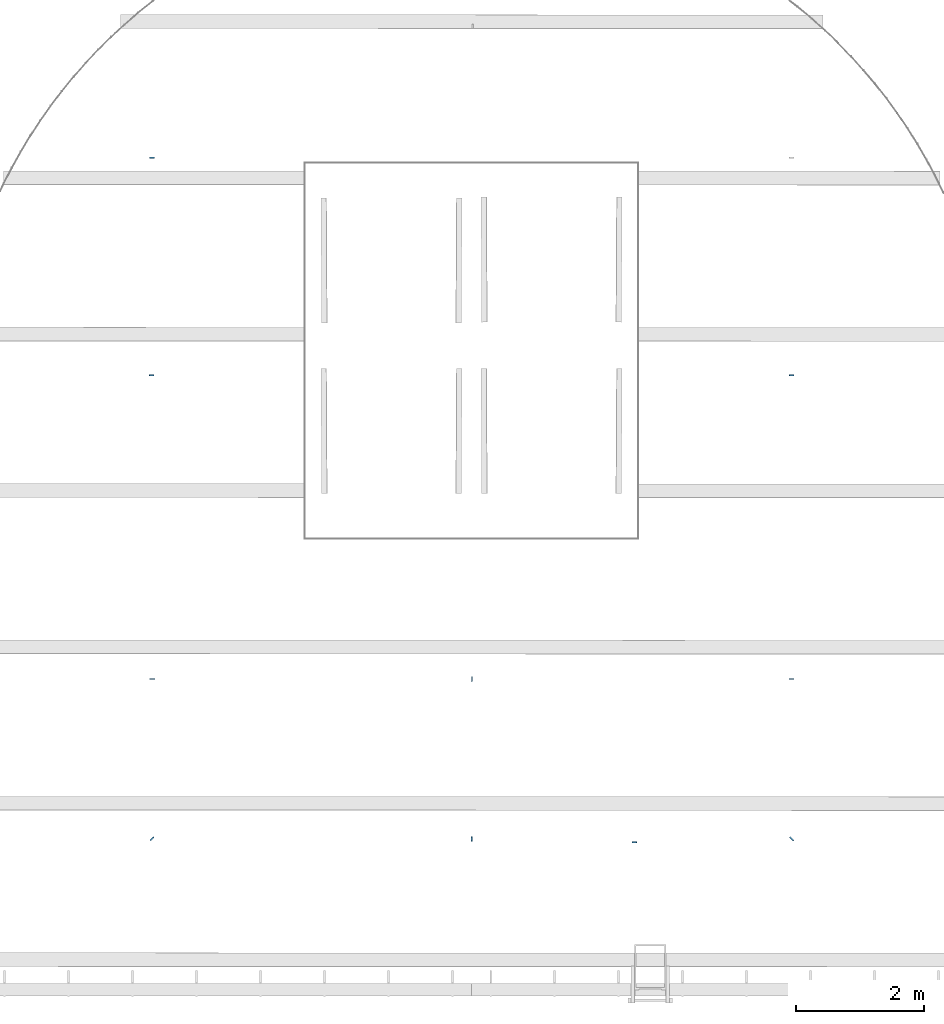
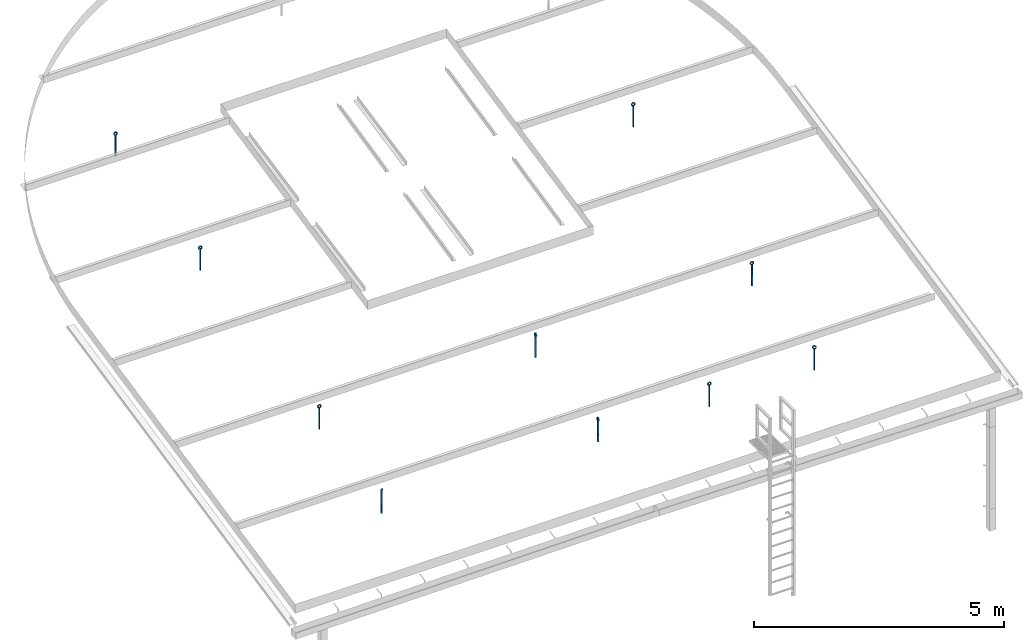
# One storey, part 2 of 7: 10 beams.
"""IFC4 building model written with IfcOpenShell, lengths in millimetres."""

from ifc_helpers import new_model, entity, si_unit, converted_unit, derived_unit, direction, frame, origin_with_axes, place, context, subcontext, project, spatial, line, arc, indexed_curve, outline, composite_profile, extrude, material, material_profile, profile_set, type_object, element, save


model = new_model("IFC4")

# Units and contexts
model_context = context("Model", 3, precision=0.01, world=origin_with_axes(), true_north=direction((0.0, 1.0)))
body_context = subcontext(model_context, "Body", "Model", "MODEL_VIEW")
ifc_project = project(units=[si_unit("LENGTHUNIT", "METRE", prefix="MILLI"), si_unit("AREAUNIT", "SQUARE_METRE"), si_unit("VOLUMEUNIT", "CUBIC_METRE"), converted_unit("PLANEANGLEUNIT", "DEGREE", entity("IfcPlaneAngleMeasure", 0.0174532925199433), si_unit("PLANEANGLEUNIT", "RADIAN"), dimensions=[0, 0, 0, 0, 0, 0, 0]), converted_unit("TIMEUNIT", "Year", entity("IfcTimeMeasure", 31557600.0), si_unit("TIMEUNIT", "SECOND"), dimensions=[0, 0, 1, 0, 0, 0, 0]), si_unit("MASSUNIT", "GRAM", prefix="KILO"), si_unit("THERMODYNAMICTEMPERATUREUNIT", "DEGREE_CELSIUS"), si_unit("LUMINOUSINTENSITYUNIT", "LUMEN"), si_unit("ENERGYUNIT", "JOULE", prefix="MEGA"), derived_unit("THERMALCONDUCTANCEUNIT", [(si_unit("POWERUNIT", "WATT"), 1), (si_unit("LENGTHUNIT", "METRE"), -1), (si_unit("THERMODYNAMICTEMPERATUREUNIT", "KELVIN"), -1)]), derived_unit("SPECIFICHEATCAPACITYUNIT", [(si_unit("ENERGYUNIT", "JOULE"), 1), (si_unit("MASSUNIT", "GRAM", prefix="KILO"), -1), (si_unit("THERMODYNAMICTEMPERATUREUNIT", "KELVIN"), -1)]), derived_unit("MASSDENSITYUNIT", [(si_unit("MASSUNIT", "GRAM", prefix="KILO"), 1), (si_unit("VOLUMEUNIT", "CUBIC_METRE"), -1)])], contexts=[model_context])

# Site, building, storey
site_placement = place(None, origin_with_axes())
site = spatial("IfcSite", under=ifc_project, at=site_placement, Name="Exteriér", CompositionType="ELEMENT")
building_placement = place(site_placement, origin_with_axes())
building = spatial("IfcBuilding", under=site, at=building_placement, Name="Univerzitní lezecké centrum", CompositionType="ELEMENT")
storey_placement = place(building_placement, frame((0.0, 0.0, 12800.0), z_axis=(0.0, 0.0, 1.0), x_axis=(1.0, 0.0, 0.0)))
storey = spatial("IfcBuildingStorey", under=building, at=storey_placement, Name="Střecha", CompositionType="ELEMENT", Elevation=12800.0)

# Beams
ifc_material = material(Name="Ocel - nerez")
ifc_material_profile_1 = material_profile(ifc_material, outline(indexed_curve([(-10.0, 0.0), (9.999999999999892, 0.0), (9.999999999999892, 511.2701665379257), (5.04017169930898, 510.3188121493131), (0.0, 509.9999999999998), (-5.040171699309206, 510.3188121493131), (-10.0, 511.2701665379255)], segments=[line(1, 2, 3), arc(3, 4, 5), arc(5, 6, 7), line(7, 1)])), Name="Ocel - nerez 1")
ifc_material_profile_2 = material_profile(ifc_material, outline(indexed_curve([(0.0, 589.9999999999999), (-28.28427124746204, 578.2842712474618), (-40.00000000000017, 549.9999999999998), (-31.6227766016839, 525.505102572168), (-10.0, 511.2701665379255), (-5.040171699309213, 510.3188121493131), (0.0, 509.9999999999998), (5.040171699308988, 510.3188121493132), (9.999999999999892, 511.2701665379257), (31.62277660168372, 525.5051025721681), (39.99999999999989, 549.9999999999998), (28.28427124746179, 578.2842712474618), (-30.0000000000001, 549.9999999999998), (-21.21320343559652, 571.2132034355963), (0.0, 579.9999999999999), (21.21320343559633, 571.2132034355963), (29.99999999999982, 549.9999999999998), (21.21320343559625, 528.7867965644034), (0.0, 519.9999999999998), (-21.2132034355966, 528.7867965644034)], segments=[arc(1, 2, 3), arc(3, 4, 5), arc(5, 6, 7), arc(7, 8, 9), arc(9, 10, 11), arc(11, 12, 1)]), holes=[indexed_curve([(0.0, 589.9999999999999), (-28.28427124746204, 578.2842712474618), (-40.00000000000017, 549.9999999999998), (-31.6227766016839, 525.505102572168), (-10.0, 511.2701665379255), (-5.040171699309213, 510.3188121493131), (0.0, 509.9999999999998), (5.040171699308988, 510.3188121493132), (9.999999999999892, 511.2701665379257), (31.62277660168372, 525.5051025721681), (39.99999999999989, 549.9999999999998), (28.28427124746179, 578.2842712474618), (-30.0000000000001, 549.9999999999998), (-21.21320343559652, 571.2132034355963), (0.0, 579.9999999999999), (21.21320343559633, 571.2132034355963), (29.99999999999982, 549.9999999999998), (21.21320343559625, 528.7867965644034), (0.0, 519.9999999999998), (-21.2132034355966, 528.7867965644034)], segments=[arc(13, 14, 15), arc(15, 16, 17), arc(17, 18, 19), arc(19, 20, 13)])]), Name="Ocel - nerez 2")
ifc_profile_set = profile_set([ifc_material_profile_1, ifc_material_profile_2], Name="Kotvící bod záchytného systému", composite=composite_profile([outline(indexed_curve([(-10.0, 0.0), (9.999999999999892, 0.0), (9.999999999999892, 511.2701665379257), (5.04017169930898, 510.3188121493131), (0.0, 509.9999999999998), (-5.040171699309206, 510.3188121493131), (-10.0, 511.2701665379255)], segments=[line(1, 2, 3), arc(3, 4, 5), arc(5, 6, 7), line(7, 1)])), outline(indexed_curve([(0.0, 589.9999999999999), (-28.28427124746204, 578.2842712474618), (-40.00000000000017, 549.9999999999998), (-31.6227766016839, 525.505102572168), (-10.0, 511.2701665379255), (-5.040171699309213, 510.3188121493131), (0.0, 509.9999999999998), (5.040171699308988, 510.3188121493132), (9.999999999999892, 511.2701665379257), (31.62277660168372, 525.5051025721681), (39.99999999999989, 549.9999999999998), (28.28427124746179, 578.2842712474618), (-30.0000000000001, 549.9999999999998), (-21.21320343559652, 571.2132034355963), (0.0, 579.9999999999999), (21.21320343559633, 571.2132034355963), (29.99999999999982, 549.9999999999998), (21.21320343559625, 528.7867965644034), (0.0, 519.9999999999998), (-21.2132034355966, 528.7867965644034)], segments=[arc(1, 2, 3), arc(3, 4, 5), arc(5, 6, 7), arc(7, 8, 9), arc(9, 10, 11), arc(11, 12, 1)]), holes=[indexed_curve([(0.0, 589.9999999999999), (-28.28427124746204, 578.2842712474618), (-40.00000000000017, 549.9999999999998), (-31.6227766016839, 525.505102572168), (-10.0, 511.2701665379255), (-5.040171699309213, 510.3188121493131), (0.0, 509.9999999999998), (5.040171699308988, 510.3188121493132), (9.999999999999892, 511.2701665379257), (31.62277660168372, 525.5051025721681), (39.99999999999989, 549.9999999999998), (28.28427124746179, 578.2842712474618), (-30.0000000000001, 549.9999999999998), (-21.21320343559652, 571.2132034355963), (0.0, 579.9999999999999), (21.21320343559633, 571.2132034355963), (29.99999999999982, 549.9999999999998), (21.21320343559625, 528.7867965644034), (0.0, 519.9999999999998), (-21.2132034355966, 528.7867965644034)], segments=[arc(13, 14, 15), arc(15, 16, 17), arc(17, 18, 19), arc(19, 20, 13)])])]))
beam_type = type_object("IfcBeamType", Name="Kotvící bod záchytného systému 80 x 590", PredefinedType="BEAM")
beam_1_placement = place(storey_placement, frame((4996.382240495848, 1686.63340389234, 186.9999999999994), z_axis=(0.0, 0.0, 1.0), x_axis=(1.0, 0.0, 0.0)))
element("IfcBeam", 1, at=beam_1_placement, inside=storey, type_object=beam_type, material=ifc_profile_set, Name="OV27", PredefinedType="BEAM", context=body_context, shape_type="SweptSolid", body=[
    extrude(composite_profile([outline(indexed_curve([(-10.0, 0.0), (9.999999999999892, 0.0), (9.999999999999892, 511.2701665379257), (5.04017169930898, 510.3188121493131), (0.0, 509.9999999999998), (-5.040171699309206, 510.3188121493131), (-10.0, 511.2701665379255)], segments=[line(1, 2, 3), arc(3, 4, 5), arc(5, 6, 7), line(7, 1)])), outline(indexed_curve([(0.0, 589.9999999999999), (-28.28427124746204, 578.2842712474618), (-40.00000000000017, 549.9999999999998), (-31.6227766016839, 525.505102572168), (-10.0, 511.2701665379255), (-5.040171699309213, 510.3188121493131), (0.0, 509.9999999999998), (5.040171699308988, 510.3188121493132), (9.999999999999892, 511.2701665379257), (31.62277660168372, 525.5051025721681), (39.99999999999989, 549.9999999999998), (28.28427124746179, 578.2842712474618), (-30.0000000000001, 549.9999999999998), (-21.21320343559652, 571.2132034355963), (0.0, 579.9999999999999), (21.21320343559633, 571.2132034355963), (29.99999999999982, 549.9999999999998), (21.21320343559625, 528.7867965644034), (0.0, 519.9999999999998), (-21.2132034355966, 528.7867965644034)], segments=[arc(1, 2, 3), arc(3, 4, 5), arc(5, 6, 7), arc(7, 8, 9), arc(9, 10, 11), arc(11, 12, 1)]), holes=[indexed_curve([(0.0, 589.9999999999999), (-28.28427124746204, 578.2842712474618), (-40.00000000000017, 549.9999999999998), (-31.6227766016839, 525.505102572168), (-10.0, 511.2701665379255), (-5.040171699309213, 510.3188121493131), (0.0, 509.9999999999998), (5.040171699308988, 510.3188121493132), (9.999999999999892, 511.2701665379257), (31.62277660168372, 525.5051025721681), (39.99999999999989, 549.9999999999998), (28.28427124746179, 578.2842712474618), (-30.0000000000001, 549.9999999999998), (-21.21320343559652, 571.2132034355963), (0.0, 579.9999999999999), (21.21320343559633, 571.2132034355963), (29.99999999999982, 549.9999999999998), (21.21320343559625, 528.7867965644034), (0.0, 519.9999999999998), (-21.2132034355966, 528.7867965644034)], segments=[arc(13, 14, 15), arc(15, 16, 17), arc(17, 18, 19), arc(19, 20, 13)])])]), frame((0.0, 19.99999999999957, 0.0), z_axis=(0.0, -1.0, 0.0), x_axis=(1.0, 0.0, 0.0)), (0.0, 0.0, 1.0), 19.99999999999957),
])
beam_2_placement = place(storey_placement, frame((2463.187812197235, 1749.653821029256, 186.9999999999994), z_axis=(0.0, 0.0, 1.0), x_axis=(0.00128151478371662, 0.9999991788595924, 0.0)))
element("IfcBeam", 2, at=beam_2_placement, inside=storey, type_object=beam_type, material=ifc_profile_set, Name="OV27", PredefinedType="BEAM", context=body_context, shape_type="SweptSolid", body=[
    extrude(composite_profile([outline(indexed_curve([(-10.0, 0.0), (9.999999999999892, 0.0), (9.999999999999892, 511.2701665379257), (5.04017169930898, 510.3188121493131), (0.0, 509.9999999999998), (-5.040171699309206, 510.3188121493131), (-10.0, 511.2701665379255)], segments=[line(1, 2, 3), arc(3, 4, 5), arc(5, 6, 7), line(7, 1)])), outline(indexed_curve([(0.0, 589.9999999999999), (-28.28427124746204, 578.2842712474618), (-40.00000000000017, 549.9999999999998), (-31.6227766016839, 525.505102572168), (-10.0, 511.2701665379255), (-5.040171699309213, 510.3188121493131), (0.0, 509.9999999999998), (5.040171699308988, 510.3188121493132), (9.999999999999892, 511.2701665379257), (31.62277660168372, 525.5051025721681), (39.99999999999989, 549.9999999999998), (28.28427124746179, 578.2842712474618), (-30.0000000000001, 549.9999999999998), (-21.21320343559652, 571.2132034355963), (0.0, 579.9999999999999), (21.21320343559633, 571.2132034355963), (29.99999999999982, 549.9999999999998), (21.21320343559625, 528.7867965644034), (0.0, 519.9999999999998), (-21.2132034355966, 528.7867965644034)], segments=[arc(1, 2, 3), arc(3, 4, 5), arc(5, 6, 7), arc(7, 8, 9), arc(9, 10, 11), arc(11, 12, 1)]), holes=[indexed_curve([(0.0, 589.9999999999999), (-28.28427124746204, 578.2842712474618), (-40.00000000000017, 549.9999999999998), (-31.6227766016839, 525.505102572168), (-10.0, 511.2701665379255), (-5.040171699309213, 510.3188121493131), (0.0, 509.9999999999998), (5.040171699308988, 510.3188121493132), (9.999999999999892, 511.2701665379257), (31.62277660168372, 525.5051025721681), (39.99999999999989, 549.9999999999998), (28.28427124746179, 578.2842712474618), (-30.0000000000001, 549.9999999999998), (-21.21320343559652, 571.2132034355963), (0.0, 579.9999999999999), (21.21320343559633, 571.2132034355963), (29.99999999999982, 549.9999999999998), (21.21320343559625, 528.7867965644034), (0.0, 519.9999999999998), (-21.2132034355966, 528.7867965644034)], segments=[arc(13, 14, 15), arc(15, 16, 17), arc(17, 18, 19), arc(19, 20, 13)])])]), frame((0.0, 20.00000000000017, 0.0), z_axis=(0.0, -1.0, 0.0), x_axis=(1.0, 0.0, 0.0)), (0.0, 0.0, 1.0), 20.00000000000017),
])
beam_3_placement = place(storey_placement, frame((7462.646355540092, 1756.73770398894, 186.9999999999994), z_axis=(0.0, 0.0, 1.0), x_axis=(-0.7071067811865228, 0.7071067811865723, 0.0)))
element("IfcBeam", 3, at=beam_3_placement, inside=storey, type_object=beam_type, material=ifc_profile_set, Name="OV27", PredefinedType="BEAM", context=body_context, shape_type="SweptSolid", body=[
    extrude(composite_profile([outline(indexed_curve([(-10.0, 0.0), (9.999999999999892, 0.0), (9.999999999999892, 511.2701665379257), (5.04017169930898, 510.3188121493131), (0.0, 509.9999999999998), (-5.040171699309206, 510.3188121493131), (-10.0, 511.2701665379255)], segments=[line(1, 2, 3), arc(3, 4, 5), arc(5, 6, 7), line(7, 1)])), outline(indexed_curve([(0.0, 589.9999999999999), (-28.28427124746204, 578.2842712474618), (-40.00000000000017, 549.9999999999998), (-31.6227766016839, 525.505102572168), (-10.0, 511.2701665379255), (-5.040171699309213, 510.3188121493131), (0.0, 509.9999999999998), (5.040171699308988, 510.3188121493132), (9.999999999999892, 511.2701665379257), (31.62277660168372, 525.5051025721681), (39.99999999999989, 549.9999999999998), (28.28427124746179, 578.2842712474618), (-30.0000000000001, 549.9999999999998), (-21.21320343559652, 571.2132034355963), (0.0, 579.9999999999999), (21.21320343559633, 571.2132034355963), (29.99999999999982, 549.9999999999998), (21.21320343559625, 528.7867965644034), (0.0, 519.9999999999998), (-21.2132034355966, 528.7867965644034)], segments=[arc(1, 2, 3), arc(3, 4, 5), arc(5, 6, 7), arc(7, 8, 9), arc(9, 10, 11), arc(11, 12, 1)]), holes=[indexed_curve([(0.0, 589.9999999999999), (-28.28427124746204, 578.2842712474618), (-40.00000000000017, 549.9999999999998), (-31.6227766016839, 525.505102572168), (-10.0, 511.2701665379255), (-5.040171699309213, 510.3188121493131), (0.0, 509.9999999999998), (5.040171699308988, 510.3188121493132), (9.999999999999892, 511.2701665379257), (31.62277660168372, 525.5051025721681), (39.99999999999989, 549.9999999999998), (28.28427124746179, 578.2842712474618), (-30.0000000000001, 549.9999999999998), (-21.21320343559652, 571.2132034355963), (0.0, 579.9999999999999), (21.21320343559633, 571.2132034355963), (29.99999999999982, 549.9999999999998), (21.21320343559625, 528.7867965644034), (0.0, 519.9999999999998), (-21.2132034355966, 528.7867965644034)], segments=[arc(13, 14, 15), arc(15, 16, 17), arc(17, 18, 19), arc(19, 20, 13)])])]), frame((0.0, 20.00000000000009, 0.0), z_axis=(0.0, 1.0, 0.0), x_axis=(-1.0, 0.0, 0.0)), (0.0, 0.0, -1.0), 20.00000000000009),
])
beam_4_placement = place(storey_placement, frame((7455.575287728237, 4259.666636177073, 728.9999999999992), z_axis=(0.0, 0.0, 1.0), x_axis=(-1.0, 0.0, 0.0)))
element("IfcBeam", 4, at=beam_4_placement, inside=storey, type_object=beam_type, material=ifc_profile_set, Name="OV27", PredefinedType="BEAM", context=body_context, shape_type="SweptSolid", body=[
    extrude(composite_profile([outline(indexed_curve([(-10.0, 0.0), (9.999999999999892, 0.0), (9.999999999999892, 511.2701665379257), (5.04017169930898, 510.3188121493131), (0.0, 509.9999999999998), (-5.040171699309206, 510.3188121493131), (-10.0, 511.2701665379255)], segments=[line(1, 2, 3), arc(3, 4, 5), arc(5, 6, 7), line(7, 1)])), outline(indexed_curve([(0.0, 589.9999999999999), (-28.28427124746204, 578.2842712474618), (-40.00000000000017, 549.9999999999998), (-31.6227766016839, 525.505102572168), (-10.0, 511.2701665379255), (-5.040171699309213, 510.3188121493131), (0.0, 509.9999999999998), (5.040171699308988, 510.3188121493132), (9.999999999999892, 511.2701665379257), (31.62277660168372, 525.5051025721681), (39.99999999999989, 549.9999999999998), (28.28427124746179, 578.2842712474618), (-30.0000000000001, 549.9999999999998), (-21.21320343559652, 571.2132034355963), (0.0, 579.9999999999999), (21.21320343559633, 571.2132034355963), (29.99999999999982, 549.9999999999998), (21.21320343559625, 528.7867965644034), (0.0, 519.9999999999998), (-21.2132034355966, 528.7867965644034)], segments=[arc(1, 2, 3), arc(3, 4, 5), arc(5, 6, 7), arc(7, 8, 9), arc(9, 10, 11), arc(11, 12, 1)]), holes=[indexed_curve([(0.0, 589.9999999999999), (-28.28427124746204, 578.2842712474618), (-40.00000000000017, 549.9999999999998), (-31.6227766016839, 525.505102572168), (-10.0, 511.2701665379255), (-5.040171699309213, 510.3188121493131), (0.0, 509.9999999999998), (5.040171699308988, 510.3188121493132), (9.999999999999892, 511.2701665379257), (31.62277660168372, 525.5051025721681), (39.99999999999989, 549.9999999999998), (28.28427124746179, 578.2842712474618), (-30.0000000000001, 549.9999999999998), (-21.21320343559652, 571.2132034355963), (0.0, 579.9999999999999), (21.21320343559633, 571.2132034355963), (29.99999999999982, 549.9999999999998), (21.21320343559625, 528.7867965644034), (0.0, 519.9999999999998), (-21.2132034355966, 528.7867965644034)], segments=[arc(13, 14, 15), arc(15, 16, 17), arc(17, 18, 19), arc(19, 20, 13)])])]), frame((0.0, 20.00000000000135, 0.0), z_axis=(0.0, 1.0, 0.0), x_axis=(-1.0, 0.0, 0.0)), (0.0, 0.0, -1.0), 20.00000000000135),
])
beam_5_placement = place(storey_placement, frame((-2539.741111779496, 1742.595568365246, 186.9999999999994), z_axis=(0.0, 0.0, 1.0), x_axis=(0.707106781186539, 0.7071067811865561, 0.0)))
element("IfcBeam", 5, at=beam_5_placement, inside=storey, type_object=beam_type, material=ifc_profile_set, Name="OV27", PredefinedType="BEAM", context=body_context, shape_type="SweptSolid", body=[
    extrude(composite_profile([outline(indexed_curve([(-10.0, 0.0), (9.999999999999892, 0.0), (9.999999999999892, 511.2701665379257), (5.04017169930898, 510.3188121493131), (0.0, 509.9999999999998), (-5.040171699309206, 510.3188121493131), (-10.0, 511.2701665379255)], segments=[line(1, 2, 3), arc(3, 4, 5), arc(5, 6, 7), line(7, 1)])), outline(indexed_curve([(0.0, 589.9999999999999), (-28.28427124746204, 578.2842712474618), (-40.00000000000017, 549.9999999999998), (-31.6227766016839, 525.505102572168), (-10.0, 511.2701665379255), (-5.040171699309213, 510.3188121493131), (0.0, 509.9999999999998), (5.040171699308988, 510.3188121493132), (9.999999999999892, 511.2701665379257), (31.62277660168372, 525.5051025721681), (39.99999999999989, 549.9999999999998), (28.28427124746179, 578.2842712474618), (-30.0000000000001, 549.9999999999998), (-21.21320343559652, 571.2132034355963), (0.0, 579.9999999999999), (21.21320343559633, 571.2132034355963), (29.99999999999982, 549.9999999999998), (21.21320343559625, 528.7867965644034), (0.0, 519.9999999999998), (-21.2132034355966, 528.7867965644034)], segments=[arc(1, 2, 3), arc(3, 4, 5), arc(5, 6, 7), arc(7, 8, 9), arc(9, 10, 11), arc(11, 12, 1)]), holes=[indexed_curve([(0.0, 589.9999999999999), (-28.28427124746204, 578.2842712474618), (-40.00000000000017, 549.9999999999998), (-31.6227766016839, 525.505102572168), (-10.0, 511.2701665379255), (-5.040171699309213, 510.3188121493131), (0.0, 509.9999999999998), (5.040171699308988, 510.3188121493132), (9.999999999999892, 511.2701665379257), (31.62277660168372, 525.5051025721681), (39.99999999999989, 549.9999999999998), (28.28427124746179, 578.2842712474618), (-30.0000000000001, 549.9999999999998), (-21.21320343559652, 571.2132034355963), (0.0, 579.9999999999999), (21.21320343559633, 571.2132034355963), (29.99999999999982, 549.9999999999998), (21.21320343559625, 528.7867965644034), (0.0, 519.9999999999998), (-21.2132034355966, 528.7867965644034)], segments=[arc(13, 14, 15), arc(15, 16, 17), arc(17, 18, 19), arc(19, 20, 13)])])]), frame((0.0, 19.99999999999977, 0.0), z_axis=(0.0, -1.0, 0.0), x_axis=(1.0, 0.0, 0.0)), (0.0, 0.0, 1.0), 19.99999999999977),
])
beam_6_placement = place(storey_placement, frame((-2543.595574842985, 4239.666636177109, 728.9999999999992), z_axis=(0.0, 0.0, 1.0), x_axis=(1.0, 0.0, 0.0)))
element("IfcBeam", 6, at=beam_6_placement, inside=storey, type_object=beam_type, material=ifc_profile_set, Name="OV27", PredefinedType="BEAM", context=body_context, shape_type="SweptSolid", body=[
    extrude(composite_profile([outline(indexed_curve([(-10.0, 0.0), (9.999999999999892, 0.0), (9.999999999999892, 511.2701665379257), (5.04017169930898, 510.3188121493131), (0.0, 509.9999999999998), (-5.040171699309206, 510.3188121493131), (-10.0, 511.2701665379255)], segments=[line(1, 2, 3), arc(3, 4, 5), arc(5, 6, 7), line(7, 1)])), outline(indexed_curve([(0.0, 589.9999999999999), (-28.28427124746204, 578.2842712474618), (-40.00000000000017, 549.9999999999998), (-31.6227766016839, 525.505102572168), (-10.0, 511.2701665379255), (-5.040171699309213, 510.3188121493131), (0.0, 509.9999999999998), (5.040171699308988, 510.3188121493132), (9.999999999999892, 511.2701665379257), (31.62277660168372, 525.5051025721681), (39.99999999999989, 549.9999999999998), (28.28427124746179, 578.2842712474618), (-30.0000000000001, 549.9999999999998), (-21.21320343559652, 571.2132034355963), (0.0, 579.9999999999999), (21.21320343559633, 571.2132034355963), (29.99999999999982, 549.9999999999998), (21.21320343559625, 528.7867965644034), (0.0, 519.9999999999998), (-21.2132034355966, 528.7867965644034)], segments=[arc(1, 2, 3), arc(3, 4, 5), arc(5, 6, 7), arc(7, 8, 9), arc(9, 10, 11), arc(11, 12, 1)]), holes=[indexed_curve([(0.0, 589.9999999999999), (-28.28427124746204, 578.2842712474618), (-40.00000000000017, 549.9999999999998), (-31.6227766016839, 525.505102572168), (-10.0, 511.2701665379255), (-5.040171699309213, 510.3188121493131), (0.0, 509.9999999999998), (5.040171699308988, 510.3188121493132), (9.999999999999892, 511.2701665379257), (31.62277660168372, 525.5051025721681), (39.99999999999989, 549.9999999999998), (28.28427124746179, 578.2842712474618), (-30.0000000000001, 549.9999999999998), (-21.21320343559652, 571.2132034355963), (0.0, 579.9999999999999), (21.21320343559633, 571.2132034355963), (29.99999999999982, 549.9999999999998), (21.21320343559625, 528.7867965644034), (0.0, 519.9999999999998), (-21.2132034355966, 528.7867965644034)], segments=[arc(13, 14, 15), arc(15, 16, 17), arc(17, 18, 19), arc(19, 20, 13)])])]), frame((0.0, 20.00000000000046, 0.0), z_axis=(0.0, -1.0, 0.0), x_axis=(1.0, 0.0, 0.0)), (0.0, 0.0, 1.0), 20.00000000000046),
])
beam_7_placement = place(storey_placement, frame((2465.575279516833, 4249.653821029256, 728.9999999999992), z_axis=(0.0, 0.0, 1.0), x_axis=(0.00128151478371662, 0.9999991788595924, 0.0)))
element("IfcBeam", 7, at=beam_7_placement, inside=storey, type_object=beam_type, material=ifc_profile_set, Name="OV27", PredefinedType="BEAM", context=body_context, shape_type="SweptSolid", body=[
    extrude(composite_profile([outline(indexed_curve([(-10.0, 0.0), (9.999999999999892, 0.0), (9.999999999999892, 511.2701665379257), (5.04017169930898, 510.3188121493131), (0.0, 509.9999999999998), (-5.040171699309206, 510.3188121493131), (-10.0, 511.2701665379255)], segments=[line(1, 2, 3), arc(3, 4, 5), arc(5, 6, 7), line(7, 1)])), outline(indexed_curve([(0.0, 589.9999999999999), (-28.28427124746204, 578.2842712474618), (-40.00000000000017, 549.9999999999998), (-31.6227766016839, 525.505102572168), (-10.0, 511.2701665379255), (-5.040171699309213, 510.3188121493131), (0.0, 509.9999999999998), (5.040171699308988, 510.3188121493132), (9.999999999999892, 511.2701665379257), (31.62277660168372, 525.5051025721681), (39.99999999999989, 549.9999999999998), (28.28427124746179, 578.2842712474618), (-30.0000000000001, 549.9999999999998), (-21.21320343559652, 571.2132034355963), (0.0, 579.9999999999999), (21.21320343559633, 571.2132034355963), (29.99999999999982, 549.9999999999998), (21.21320343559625, 528.7867965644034), (0.0, 519.9999999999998), (-21.2132034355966, 528.7867965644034)], segments=[arc(1, 2, 3), arc(3, 4, 5), arc(5, 6, 7), arc(7, 8, 9), arc(9, 10, 11), arc(11, 12, 1)]), holes=[indexed_curve([(0.0, 589.9999999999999), (-28.28427124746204, 578.2842712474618), (-40.00000000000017, 549.9999999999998), (-31.6227766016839, 525.505102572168), (-10.0, 511.2701665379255), (-5.040171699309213, 510.3188121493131), (0.0, 509.9999999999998), (5.040171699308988, 510.3188121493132), (9.999999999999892, 511.2701665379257), (31.62277660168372, 525.5051025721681), (39.99999999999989, 549.9999999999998), (28.28427124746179, 578.2842712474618), (-30.0000000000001, 549.9999999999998), (-21.21320343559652, 571.2132034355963), (0.0, 579.9999999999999), (21.21320343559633, 571.2132034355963), (29.99999999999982, 549.9999999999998), (21.21320343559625, 528.7867965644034), (0.0, 519.9999999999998), (-21.2132034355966, 528.7867965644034)], segments=[arc(13, 14, 15), arc(15, 16, 17), arc(17, 18, 19), arc(19, 20, 13)])])]), frame((0.0, 20.00000000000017, 0.0), z_axis=(0.0, -1.0, 0.0), x_axis=(1.0, 0.0, 0.0)), (0.0, 0.0, 1.0), 20.00000000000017),
])
beam_8_placement = place(storey_placement, frame((-2553.242784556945, 8989.66663617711, 1730.0), z_axis=(0.0, 0.0, 1.0), x_axis=(1.0, 0.0, 0.0)))
element("IfcBeam", 8, at=beam_8_placement, inside=storey, type_object=beam_type, material=ifc_profile_set, Name="OV27", PredefinedType="BEAM", context=body_context, shape_type="SweptSolid", body=[
    extrude(composite_profile([outline(indexed_curve([(-10.0, 0.0), (9.999999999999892, 0.0), (9.999999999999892, 511.2701665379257), (5.04017169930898, 510.3188121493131), (0.0, 509.9999999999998), (-5.040171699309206, 510.3188121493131), (-10.0, 511.2701665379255)], segments=[line(1, 2, 3), arc(3, 4, 5), arc(5, 6, 7), line(7, 1)])), outline(indexed_curve([(0.0, 589.9999999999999), (-28.28427124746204, 578.2842712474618), (-40.00000000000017, 549.9999999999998), (-31.6227766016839, 525.505102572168), (-10.0, 511.2701665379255), (-5.040171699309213, 510.3188121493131), (0.0, 509.9999999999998), (5.040171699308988, 510.3188121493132), (9.999999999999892, 511.2701665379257), (31.62277660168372, 525.5051025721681), (39.99999999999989, 549.9999999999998), (28.28427124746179, 578.2842712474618), (-30.0000000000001, 549.9999999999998), (-21.21320343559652, 571.2132034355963), (0.0, 579.9999999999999), (21.21320343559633, 571.2132034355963), (29.99999999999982, 549.9999999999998), (21.21320343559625, 528.7867965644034), (0.0, 519.9999999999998), (-21.2132034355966, 528.7867965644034)], segments=[arc(1, 2, 3), arc(3, 4, 5), arc(5, 6, 7), arc(7, 8, 9), arc(9, 10, 11), arc(11, 12, 1)]), holes=[indexed_curve([(0.0, 589.9999999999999), (-28.28427124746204, 578.2842712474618), (-40.00000000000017, 549.9999999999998), (-31.6227766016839, 525.505102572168), (-10.0, 511.2701665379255), (-5.040171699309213, 510.3188121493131), (0.0, 509.9999999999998), (5.040171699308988, 510.3188121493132), (9.999999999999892, 511.2701665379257), (31.62277660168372, 525.5051025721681), (39.99999999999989, 549.9999999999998), (28.28427124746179, 578.2842712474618), (-30.0000000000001, 549.9999999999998), (-21.21320343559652, 571.2132034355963), (0.0, 579.9999999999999), (21.21320343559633, 571.2132034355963), (29.99999999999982, 549.9999999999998), (21.21320343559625, 528.7867965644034), (0.0, 519.9999999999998), (-21.2132034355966, 528.7867965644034)], segments=[arc(13, 14, 15), arc(15, 16, 17), arc(17, 18, 19), arc(19, 20, 13)])])]), frame((0.0, 20.00000000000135, 0.0), z_axis=(0.0, -1.0, 0.0), x_axis=(1.0, 0.0, 0.0)), (0.0, 0.0, 1.0), 20.00000000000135),
])
beam_9_placement = place(storey_placement, frame((7455.575287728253, 9009.666636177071, 1730.0), z_axis=(0.0, 0.0, 1.0), x_axis=(-1.0, 0.0, 0.0)))
element("IfcBeam", 9, at=beam_9_placement, inside=storey, type_object=beam_type, material=ifc_profile_set, Name="OV27", PredefinedType="BEAM", context=body_context, shape_type="SweptSolid", body=[
    extrude(composite_profile([outline(indexed_curve([(-10.0, 0.0), (9.999999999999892, 0.0), (9.999999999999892, 511.2701665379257), (5.04017169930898, 510.3188121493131), (0.0, 509.9999999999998), (-5.040171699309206, 510.3188121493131), (-10.0, 511.2701665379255)], segments=[line(1, 2, 3), arc(3, 4, 5), arc(5, 6, 7), line(7, 1)])), outline(indexed_curve([(0.0, 589.9999999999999), (-28.28427124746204, 578.2842712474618), (-40.00000000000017, 549.9999999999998), (-31.6227766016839, 525.505102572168), (-10.0, 511.2701665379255), (-5.040171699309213, 510.3188121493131), (0.0, 509.9999999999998), (5.040171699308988, 510.3188121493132), (9.999999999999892, 511.2701665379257), (31.62277660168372, 525.5051025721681), (39.99999999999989, 549.9999999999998), (28.28427124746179, 578.2842712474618), (-30.0000000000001, 549.9999999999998), (-21.21320343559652, 571.2132034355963), (0.0, 579.9999999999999), (21.21320343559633, 571.2132034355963), (29.99999999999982, 549.9999999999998), (21.21320343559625, 528.7867965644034), (0.0, 519.9999999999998), (-21.2132034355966, 528.7867965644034)], segments=[arc(1, 2, 3), arc(3, 4, 5), arc(5, 6, 7), arc(7, 8, 9), arc(9, 10, 11), arc(11, 12, 1)]), holes=[indexed_curve([(0.0, 589.9999999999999), (-28.28427124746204, 578.2842712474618), (-40.00000000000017, 549.9999999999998), (-31.6227766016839, 525.505102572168), (-10.0, 511.2701665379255), (-5.040171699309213, 510.3188121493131), (0.0, 509.9999999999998), (5.040171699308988, 510.3188121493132), (9.999999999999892, 511.2701665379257), (31.62277660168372, 525.5051025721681), (39.99999999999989, 549.9999999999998), (28.28427124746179, 578.2842712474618), (-30.0000000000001, 549.9999999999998), (-21.21320343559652, 571.2132034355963), (0.0, 579.9999999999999), (21.21320343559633, 571.2132034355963), (29.99999999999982, 549.9999999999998), (21.21320343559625, 528.7867965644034), (0.0, 519.9999999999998), (-21.2132034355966, 528.7867965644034)], segments=[arc(13, 14, 15), arc(15, 16, 17), arc(17, 18, 19), arc(19, 20, 13)])])]), frame((0.0, 19.99999999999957, 0.0), z_axis=(0.0, 1.0, 0.0), x_axis=(-1.0, 0.0, 0.0)), (0.0, 0.0, -1.0), 19.99999999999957),
])
beam_10_placement = place(storey_placement, frame((-2546.812179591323, 12389.66663617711, 2453.0), z_axis=(0.0, 0.0, 1.0), x_axis=(1.0, 0.0, 0.0)))
element("IfcBeam", 10, at=beam_10_placement, inside=storey, type_object=beam_type, material=ifc_profile_set, Name="OV27", PredefinedType="BEAM", context=body_context, shape_type="SweptSolid", body=[
    extrude(composite_profile([outline(indexed_curve([(-10.0, 0.0), (9.999999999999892, 0.0), (9.999999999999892, 511.2701665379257), (5.04017169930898, 510.3188121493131), (0.0, 509.9999999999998), (-5.040171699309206, 510.3188121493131), (-10.0, 511.2701665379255)], segments=[line(1, 2, 3), arc(3, 4, 5), arc(5, 6, 7), line(7, 1)])), outline(indexed_curve([(0.0, 589.9999999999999), (-28.28427124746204, 578.2842712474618), (-40.00000000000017, 549.9999999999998), (-31.6227766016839, 525.505102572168), (-10.0, 511.2701665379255), (-5.040171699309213, 510.3188121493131), (0.0, 509.9999999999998), (5.040171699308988, 510.3188121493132), (9.999999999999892, 511.2701665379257), (31.62277660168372, 525.5051025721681), (39.99999999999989, 549.9999999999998), (28.28427124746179, 578.2842712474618), (-30.0000000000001, 549.9999999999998), (-21.21320343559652, 571.2132034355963), (0.0, 579.9999999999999), (21.21320343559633, 571.2132034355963), (29.99999999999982, 549.9999999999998), (21.21320343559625, 528.7867965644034), (0.0, 519.9999999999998), (-21.2132034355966, 528.7867965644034)], segments=[arc(1, 2, 3), arc(3, 4, 5), arc(5, 6, 7), arc(7, 8, 9), arc(9, 10, 11), arc(11, 12, 1)]), holes=[indexed_curve([(0.0, 589.9999999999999), (-28.28427124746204, 578.2842712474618), (-40.00000000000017, 549.9999999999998), (-31.6227766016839, 525.505102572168), (-10.0, 511.2701665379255), (-5.040171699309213, 510.3188121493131), (0.0, 509.9999999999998), (5.040171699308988, 510.3188121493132), (9.999999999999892, 511.2701665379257), (31.62277660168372, 525.5051025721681), (39.99999999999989, 549.9999999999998), (28.28427124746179, 578.2842712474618), (-30.0000000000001, 549.9999999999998), (-21.21320343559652, 571.2132034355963), (0.0, 579.9999999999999), (21.21320343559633, 571.2132034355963), (29.99999999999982, 549.9999999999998), (21.21320343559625, 528.7867965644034), (0.0, 519.9999999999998), (-21.2132034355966, 528.7867965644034)], segments=[arc(13, 14, 15), arc(15, 16, 17), arc(17, 18, 19), arc(19, 20, 13)])])]), frame((0.0, 20.00000000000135, 0.0), z_axis=(0.0, -1.0, 0.0), x_axis=(1.0, 0.0, 0.0)), (0.0, 0.0, 1.0), 20.00000000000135),
])

save(model, "model.ifc")
